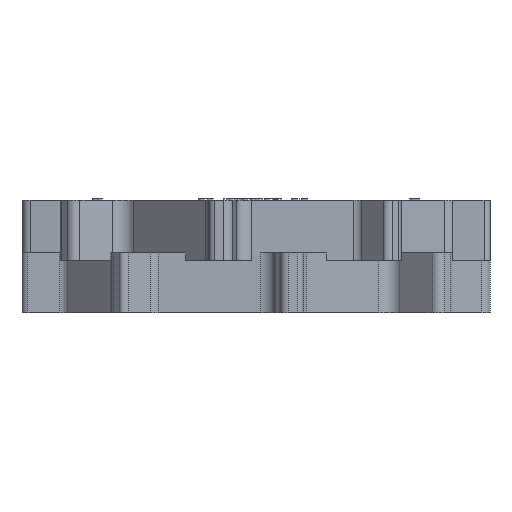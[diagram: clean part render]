
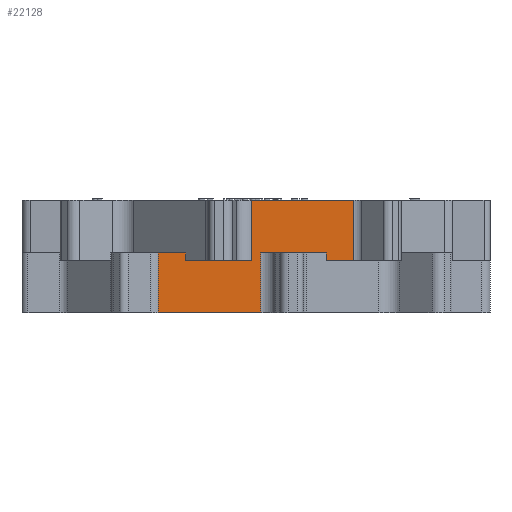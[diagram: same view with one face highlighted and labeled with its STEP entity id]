
A CAD part, front view. The second image highlights one B-rep face of the part: STEP entity #22128.
In plain terms, the highlighted planar face has unit normal (0, -1, 0).
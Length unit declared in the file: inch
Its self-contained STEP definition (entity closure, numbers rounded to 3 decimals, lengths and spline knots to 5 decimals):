
#85=DIRECTION('',(-1.,0.,0.));
#86=VECTOR('',#85,0.54583);
#87=CARTESIAN_POINT('',(-0.03821,-1.41,-0.03));
#88=LINE('',#87,#86);
#5377=DIRECTION('',(0.,0.,-1.));
#5378=VECTOR('',#5377,0.5);
#5379=CARTESIAN_POINT('',(0.03821,-1.41,0.03));
#5380=LINE('',#5379,#5378);
#5381=DIRECTION('',(-1.,0.,0.));
#5382=VECTOR('',#5381,0.85291);
#5383=CARTESIAN_POINT('',(0.03821,-1.41,-0.47));
#5384=LINE('',#5383,#5382);
#5385=DIRECTION('',(1.,0.,0.));
#5386=VECTOR('',#5385,0.23065);
#5387=CARTESIAN_POINT('',(-0.81469,-1.41,0.03));
#5388=LINE('',#5387,#5386);
#5389=DIRECTION('',(0.,0.,1.));
#5390=VECTOR('',#5389,0.5);
#5391=CARTESIAN_POINT('',(-0.03821,-1.41,-0.03));
#5392=LINE('',#5391,#5390);
#5393=DIRECTION('',(1.,0.,0.));
#5394=VECTOR('',#5393,0.85291);
#5395=CARTESIAN_POINT('',(-0.03821,-1.41,0.47));
#5396=LINE('',#5395,#5394);
#5397=DIRECTION('',(-1.,0.,0.));
#5398=VECTOR('',#5397,0.23065);
#5399=CARTESIAN_POINT('',(0.81469,-1.41,-0.03));
#5400=LINE('',#5399,#5398);
#5401=DIRECTION('',(0.,0.,1.));
#5402=VECTOR('',#5401,0.06);
#5403=CARTESIAN_POINT('',(0.58404,-1.41,-0.03));
#5404=LINE('',#5403,#5402);
#5405=DIRECTION('',(1.,0.,0.));
#5406=VECTOR('',#5405,0.54583);
#5407=CARTESIAN_POINT('',(0.03821,-1.41,0.03));
#5408=LINE('',#5407,#5406);
#5418=DIRECTION('',(0.,0.,-1.));
#5419=VECTOR('',#5418,0.5);
#5420=CARTESIAN_POINT('',(-0.81469,-1.41,0.03));
#5421=LINE('',#5420,#5419);
#5491=DIRECTION('',(0.,0.,1.));
#5492=VECTOR('',#5491,0.06);
#5493=CARTESIAN_POINT('',(-0.58404,-1.41,-0.03));
#5494=LINE('',#5493,#5492);
#5826=DIRECTION('',(0.,0.,1.));
#5827=VECTOR('',#5826,0.5);
#5828=CARTESIAN_POINT('',(0.81469,-1.41,-0.03));
#5829=LINE('',#5828,#5827);
#13542=CARTESIAN_POINT('',(0.81469,-1.41,-0.03));
#13544=VERTEX_POINT('',#13542);
#13647=CARTESIAN_POINT('',(0.81469,-1.41,0.47));
#13648=VERTEX_POINT('',#13647);
#13650=CARTESIAN_POINT('',(-0.03821,-1.41,0.47));
#13652=VERTEX_POINT('',#13650);
#13766=CARTESIAN_POINT('',(-0.81469,-1.41,0.03));
#13768=VERTEX_POINT('',#13766);
#13841=CARTESIAN_POINT('',(-0.03821,-1.41,-0.03));
#13842=CARTESIAN_POINT('',(-0.58404,-1.41,-0.03));
#13843=VERTEX_POINT('',#13841);
#13844=VERTEX_POINT('',#13842);
#13846=CARTESIAN_POINT('',(0.58404,-1.41,-0.03));
#13848=VERTEX_POINT('',#13846);
#13873=CARTESIAN_POINT('',(0.03821,-1.41,0.03));
#13874=CARTESIAN_POINT('',(0.58404,-1.41,0.03));
#13875=VERTEX_POINT('',#13873);
#13876=VERTEX_POINT('',#13874);
#13878=CARTESIAN_POINT('',(-0.58404,-1.41,0.03));
#13880=VERTEX_POINT('',#13878);
#13951=CARTESIAN_POINT('',(-0.81469,-1.41,-0.47));
#13952=VERTEX_POINT('',#13951);
#13954=CARTESIAN_POINT('',(0.03821,-1.41,-0.47));
#13956=VERTEX_POINT('',#13954);
#22105=CARTESIAN_POINT('',(0.,-1.41,-0.03));
#22106=DIRECTION('',(0.,-1.,0.));
#22107=DIRECTION('',(1.,0.,0.));
#22108=AXIS2_PLACEMENT_3D('',#22105,#22106,#22107);
#22109=PLANE('',#22108);
#22110=ORIENTED_EDGE('',*,*,#22100,.T.);
#22111=ORIENTED_EDGE('',*,*,#18694,.T.);
#22113=ORIENTED_EDGE('',*,*,#22112,.F.);
#22114=ORIENTED_EDGE('',*,*,#18310,.T.);
#22116=ORIENTED_EDGE('',*,*,#22115,.F.);
#22117=ORIENTED_EDGE('',*,*,#18030,.F.);
#22119=ORIENTED_EDGE('',*,*,#22118,.T.);
#22120=ORIENTED_EDGE('',*,*,#18990,.T.);
#22122=ORIENTED_EDGE('',*,*,#22121,.F.);
#22123=ORIENTED_EDGE('',*,*,#18058,.T.);
#22124=ORIENTED_EDGE('',*,*,#22000,.T.);
#22125=ORIENTED_EDGE('',*,*,#18282,.F.);
#22126=EDGE_LOOP('',(#22110,#22111,#22113,#22114,#22116,#22117,#22119,#22120,
#22122,#22123,#22124,#22125));
#22127=FACE_OUTER_BOUND('',#22126,.F.);
#22128=ADVANCED_FACE('',(#22127),#22109,.T.);
#18030=EDGE_CURVE('',#13843,#13844,#88,.T.);
#18058=EDGE_CURVE('',#13544,#13848,#5400,.T.);
#18282=EDGE_CURVE('',#13875,#13876,#5408,.T.);
#18310=EDGE_CURVE('',#13768,#13880,#5388,.T.);
#18694=EDGE_CURVE('',#13956,#13952,#5384,.T.);
#18990=EDGE_CURVE('',#13652,#13648,#5396,.T.);
#22000=EDGE_CURVE('',#13848,#13876,#5404,.T.);
#22100=EDGE_CURVE('',#13875,#13956,#5380,.T.);
#22112=EDGE_CURVE('',#13768,#13952,#5421,.T.);
#22115=EDGE_CURVE('',#13844,#13880,#5494,.T.);
#22118=EDGE_CURVE('',#13843,#13652,#5392,.T.);
#22121=EDGE_CURVE('',#13544,#13648,#5829,.T.);
